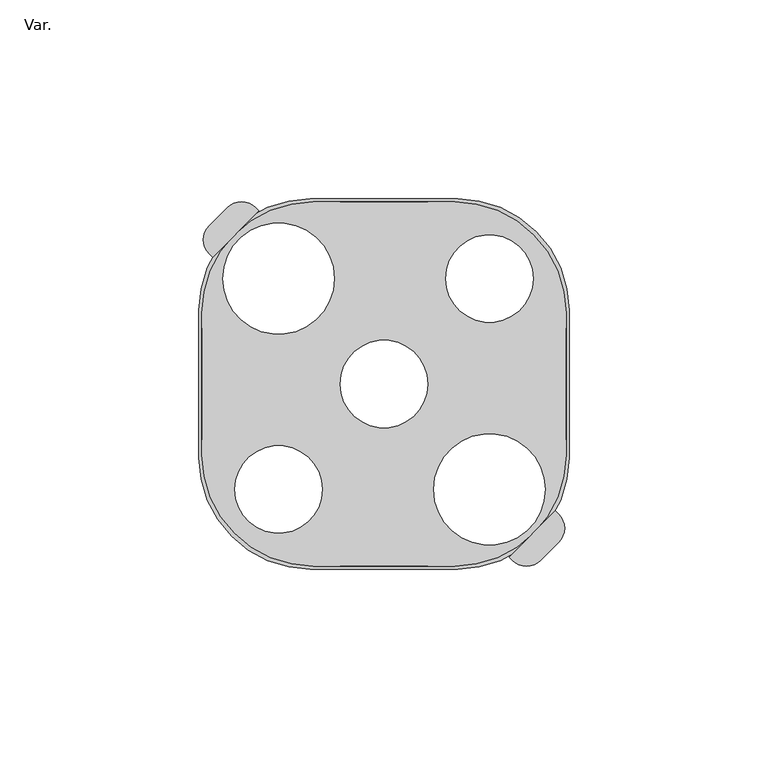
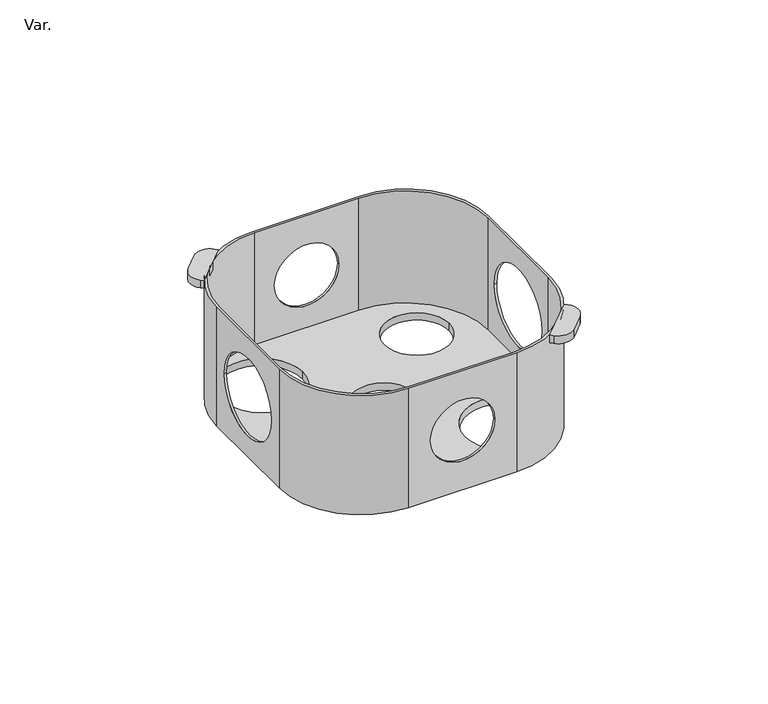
"""IFC4 building model written with IfcOpenShell, lengths in millimetres: cable carrier fitting geometry, PlastigamaWavin_Unionesdetubo_ConduitCajaOctogonal : Var.."""

from ifc_helpers import new_model, si_unit, point, frame, frame_2d, origin, place, context, project, spatial, polyline, circle_curve, trimmed, segment, composite_curve, outline, extrude, source, transform, mapped, element, save
from ifc_brep_helpers import plane_surface, cylinder_surface, revolved_surface, advanced_brep


def var_a69d591e(model_context):
    return source(origin(), model_context, "Body", "SolidModel", [
        extrude(outline(composite_curve([segment(trimmed(circle_curve(frame_2d((35.806231, -40.7917488)), 5.0), [point((39.3417649, -44.3272827))], [point((32.2706971, -44.3272827))], False, "CARTESIAN"), True, "CONTINUOUS"), segment(polyline([(32.2706971, -44.3272827), (31.4609084, -43.517494), (43.0936848, -31.8847176), (43.9034735, -32.6945063)]), True, "CONTINUOUS"), segment(trimmed(circle_curve(frame_2d((40.3679396, -36.2300402)), 5.0), [point((43.9034735, -32.6945063))], [point((43.9034735, -39.7655741))], False, "CARTESIAN"), True, "CONTINUOUS"), segment(polyline([(43.9034735, -39.7655741), (39.3417649, -44.3272827)]), True, "CONTINUOUS")], self_intersect=False)), frame((0.0, 0.0, 18.6577793), z_axis=(0.0, 0.0, 1.0), x_axis=(1.0, 0.0, 0.0)), (0.0, 0.0, 1.0), 2.8422207),
        extrude(outline(composite_curve([segment(trimmed(circle_curve(frame_2d((-35.806231, 40.7917488)), 5.0), [point((-39.3417649, 44.3272827))], [point((-32.2706971, 44.3272827))], False, "CARTESIAN"), True, "CONTINUOUS"), segment(polyline([(-32.2706971, 44.3272827), (-31.4609084, 43.517494), (-43.0936848, 31.8847176), (-43.9034735, 32.6945063)]), True, "CONTINUOUS"), segment(trimmed(circle_curve(frame_2d((-40.3679396, 36.2300402)), 5.0), [point((-43.9034735, 32.6945063))], [point((-43.9034735, 39.7655741))], False, "CARTESIAN"), True, "CONTINUOUS"), segment(polyline([(-43.9034735, 39.7655741), (-39.3417649, 44.3272827)]), True, "CONTINUOUS")], self_intersect=False)), frame((0.0, 0.0, 18.6577793), z_axis=(0.0, 0.0, 1.0), x_axis=(1.0, 0.0, 0.0)), (0.0, 0.0, 1.0), 2.8422207),
        advanced_brep(
        [(18.5, 46.5, 21.5), (-18.5, 46.5, 21.5), (-46.5, 18.5, 21.5), (-46.5, -18.5, 21.5), (-18.5, -46.5, 21.5), (18.5, -46.5, 21.5), (46.5, -18.5, 21.5), (46.5, 18.5, 21.5), (-17.75, -45.75, 21.5), (-45.75, -17.75, 21.5), (-45.75, 17.75, 21.5), (-17.75, 45.75, 21.5), (17.75, 45.75, 21.5), (45.75, 17.75, 21.5), (45.75, -17.75, 21.5), (17.75, -45.75, 21.5), (18.5, 46.5, -21.5), (46.5, 18.5, -21.5), (46.5, -18.5, -21.5), (18.5, -46.5, -21.5), (-18.5, -46.5, -21.5), (-46.5, -18.5, -21.5), (-46.5, 18.5, -21.5), (-18.5, 46.5, -21.5), (-40.5, 26.5, -21.5), (-12.5, 26.5, -21.5), (15.5, 26.5, -21.5), (37.5, 26.5, -21.5), (-11.0, 0.0, -21.5), (11.0, 0.0, -21.5), (12.5, -26.5, -21.5), (40.5, -26.5, -21.5), (-37.5, -26.5, -21.5), (-15.5, -26.5, -21.5), (-11.0, 46.5, 0.0), (11.0, 46.5, 0.0), (-46.5, -14.0, 0.0), (-46.5, 14.0, 0.0), (11.0, -46.5, 0.0), (-11.0, -46.5, 0.0), (46.5, 14.0, 0.0), (46.5, -14.0, 0.0), (-45.75, -17.75, -18.9014725), (-17.75, -45.75, -18.9014725), (17.75, -45.75, -18.9014725), (45.75, -17.75, -18.9014725), (45.75, 17.75, -18.9014725), (17.75, 45.75, -18.9014725), (-17.75, 45.75, -18.9014725), (-45.75, 17.75, -18.9014725), (-12.5, 26.5, -18.9014725), (-40.5, 26.5, -18.9014725), (37.5, 26.5, -18.9014725), (15.5, 26.5, -18.9014725), (11.0, 0.0, -18.9014725), (-11.0, 0.0, -18.9014725), (40.5, -26.5, -18.9014725), (12.5, -26.5, -18.9014725), (-15.5, -26.5, -18.9014725), (-37.5, -26.5, -18.9014725), (-11.0, -45.75, 0.0), (11.0, -45.75, 0.0), (45.75, -14.0, 0.0), (45.75, 14.0, 0.0), (11.0, 45.75, 0.0), (-11.0, 45.75, 0.0), (-45.75, 14.0, 0.0), (-45.75, -14.0, 0.0)],
        [
            (0, 1),
            (1, 2, circle_curve(frame((-18.5, 18.5, 21.5), z_axis=(0.0, 0.0, 1.0), x_axis=(1.0, 0.0, 0.0)), 28.0)),
            (2, 3),
            (3, 4, circle_curve(frame((-18.5, -18.5, 21.5), z_axis=(0.0, 0.0, 1.0), x_axis=(1.0, 0.0, 0.0)), 28.0)),
            (4, 5),
            (5, 6, circle_curve(frame((18.5, -18.5, 21.5), z_axis=(0.0, 0.0, 1.0), x_axis=(1.0, 0.0, 0.0)), 28.0)),
            (6, 7),
            (7, 0, circle_curve(frame((18.5, 18.5, 21.5), z_axis=(0.0, 0.0, 1.0), x_axis=(1.0, 0.0, 0.0)), 28.0)),
            (8, 9, circle_curve(frame((-17.75, -17.75, 21.5), z_axis=(0.0, 0.0, -1.0), x_axis=(1.0, 0.0, 0.0)), 28.0)),
            (9, 10),
            (10, 11, circle_curve(frame((-17.75, 17.75, 21.5), z_axis=(0.0, 0.0, -1.0), x_axis=(1.0, 0.0, 0.0)), 28.0)),
            (11, 12),
            (12, 13, circle_curve(frame((17.75, 17.75, 21.5), z_axis=(0.0, 0.0, -1.0), x_axis=(1.0, 0.0, 0.0)), 28.0)),
            (13, 14),
            (14, 15, circle_curve(frame((17.75, -17.75, 21.5), z_axis=(0.0, 0.0, -1.0), x_axis=(1.0, 0.0, 0.0)), 28.0)),
            (15, 8),
            (16, 17, circle_curve(frame((18.5, 18.5, -21.5), z_axis=(0.0, 0.0, -1.0), x_axis=(1.0, 0.0, 0.0)), 28.0)),
            (17, 18),
            (18, 19, circle_curve(frame((18.5, -18.5, -21.5), z_axis=(0.0, 0.0, -1.0), x_axis=(1.0, 0.0, 0.0)), 28.0)),
            (19, 20),
            (20, 21, circle_curve(frame((-18.5, -18.5, -21.5), z_axis=(0.0, 0.0, -1.0), x_axis=(1.0, 0.0, 0.0)), 28.0)),
            (21, 22),
            (22, 23, circle_curve(frame((-18.5, 18.5, -21.5), z_axis=(0.0, 0.0, -1.0), x_axis=(1.0, 0.0, 0.0)), 28.0)),
            (23, 16),
            (24, 25, circle_curve(frame((-26.5, 26.5, -21.5), z_axis=(0.0, 0.0, 1.0), x_axis=(1.0, 0.0, 0.0)), 14.0)),
            (25, 24, circle_curve(frame((-26.5, 26.5, -21.5), z_axis=(0.0, 0.0, 1.0), x_axis=(1.0, 0.0, 0.0)), 14.0)),
            (26, 27, circle_curve(frame((26.5, 26.5, -21.5), z_axis=(0.0, 0.0, 1.0), x_axis=(1.0, 0.0, 0.0)), 11.0)),
            (27, 26, circle_curve(frame((26.5, 26.5, -21.5), z_axis=(0.0, 0.0, 1.0), x_axis=(1.0, 0.0, 0.0)), 11.0)),
            (28, 29, circle_curve(frame((0.0, 0.0, -21.5), z_axis=(0.0, 0.0, 1.0), x_axis=(1.0, 0.0, 0.0)), 11.0)),
            (29, 28, circle_curve(frame((0.0, 0.0, -21.5), z_axis=(0.0, 0.0, 1.0), x_axis=(1.0, 0.0, 0.0)), 11.0)),
            (30, 31, circle_curve(frame((26.5, -26.5, -21.5), z_axis=(0.0, 0.0, 1.0), x_axis=(1.0, 0.0, 0.0)), 14.0)),
            (31, 30, circle_curve(frame((26.5, -26.5, -21.5), z_axis=(0.0, 0.0, 1.0), x_axis=(1.0, 0.0, 0.0)), 14.0)),
            (32, 33, circle_curve(frame((-26.5, -26.5, -21.5), z_axis=(0.0, 0.0, 1.0), x_axis=(1.0, 0.0, 0.0)), 11.0)),
            (33, 32, circle_curve(frame((-26.5, -26.5, -21.5), z_axis=(0.0, 0.0, 1.0), x_axis=(1.0, 0.0, 0.0)), 11.0)),
            (0, 16),
            (23, 1),
            (34, 35, circle_curve(frame((0.0, 46.5, 0.0), z_axis=(0.0, -1.0, 0.0), x_axis=(1.0, 0.0, 0.0)), 11.0)),
            (35, 34, circle_curve(frame((0.0, 46.5, 0.0), z_axis=(0.0, -1.0, 0.0), x_axis=(1.0, 0.0, 0.0)), 11.0)),
            (22, 2),
            (21, 3),
            (36, 37, circle_curve(frame((-46.5, 0.0, 0.0), z_axis=(1.0, 0.0, 0.0), x_axis=(0.0, 1.0, 0.0)), 14.0)),
            (37, 36, circle_curve(frame((-46.5, 0.0, 0.0), z_axis=(1.0, 0.0, 0.0), x_axis=(0.0, 1.0, 0.0)), 14.0)),
            (20, 4),
            (19, 5),
            (38, 39, circle_curve(frame((0.0, -46.5, 0.0), z_axis=(0.0, 1.0, 0.0), x_axis=(1.0, 0.0, 0.0)), 11.0)),
            (39, 38, circle_curve(frame((0.0, -46.5, 0.0), z_axis=(0.0, 1.0, 0.0), x_axis=(1.0, 0.0, 0.0)), 11.0)),
            (18, 6),
            (17, 7),
            (40, 41, circle_curve(frame((46.5, 0.0, 0.0), z_axis=(-1.0, 0.0, 0.0), x_axis=(0.0, 1.0, 0.0)), 14.0)),
            (41, 40, circle_curve(frame((46.5, 0.0, 0.0), z_axis=(-1.0, 0.0, 0.0), x_axis=(0.0, 1.0, 0.0)), 14.0)),
            (42, 43, circle_curve(frame((-17.75, -17.75, -18.9014725), z_axis=(0.0, 0.0, 1.0), x_axis=(1.0, 0.0, 0.0)), 28.0)),
            (43, 44),
            (44, 45, circle_curve(frame((17.75, -17.75, -18.9014725), z_axis=(0.0, 0.0, 1.0), x_axis=(1.0, 0.0, 0.0)), 28.0)),
            (45, 46),
            (46, 47, circle_curve(frame((17.75, 17.75, -18.9014725), z_axis=(0.0, 0.0, 1.0), x_axis=(1.0, 0.0, 0.0)), 28.0)),
            (47, 48),
            (48, 49, circle_curve(frame((-17.75, 17.75, -18.9014725), z_axis=(0.0, 0.0, 1.0), x_axis=(1.0, 0.0, 0.0)), 28.0)),
            (49, 42),
            (50, 51, circle_curve(frame((-26.5, 26.5, -18.9014725), z_axis=(0.0, 0.0, -1.0), x_axis=(1.0, 0.0, 0.0)), 14.0)),
            (51, 50, circle_curve(frame((-26.5, 26.5, -18.9014725), z_axis=(0.0, 0.0, -1.0), x_axis=(1.0, 0.0, 0.0)), 14.0)),
            (52, 53, circle_curve(frame((26.5, 26.5, -18.9014725), z_axis=(0.0, 0.0, -1.0), x_axis=(1.0, 0.0, 0.0)), 11.0)),
            (53, 52, circle_curve(frame((26.5, 26.5, -18.9014725), z_axis=(0.0, 0.0, -1.0), x_axis=(1.0, 0.0, 0.0)), 11.0)),
            (54, 55, circle_curve(frame((0.0, 0.0, -18.9014725), z_axis=(0.0, 0.0, -1.0), x_axis=(1.0, 0.0, 0.0)), 11.0)),
            (55, 54, circle_curve(frame((0.0, 0.0, -18.9014725), z_axis=(0.0, 0.0, -1.0), x_axis=(1.0, 0.0, 0.0)), 11.0)),
            (56, 57, circle_curve(frame((26.5, -26.5, -18.9014725), z_axis=(0.0, 0.0, -1.0), x_axis=(1.0, 0.0, 0.0)), 14.0)),
            (57, 56, circle_curve(frame((26.5, -26.5, -18.9014725), z_axis=(0.0, 0.0, -1.0), x_axis=(1.0, 0.0, 0.0)), 14.0)),
            (58, 59, circle_curve(frame((-26.5, -26.5, -18.9014725), z_axis=(0.0, 0.0, -1.0), x_axis=(1.0, 0.0, 0.0)), 11.0)),
            (59, 58, circle_curve(frame((-26.5, -26.5, -18.9014725), z_axis=(0.0, 0.0, -1.0), x_axis=(1.0, 0.0, 0.0)), 11.0)),
            (42, 9),
            (8, 43),
            (15, 44),
            (60, 61, circle_curve(frame((0.0, -45.75, 0.0), z_axis=(0.0, -1.0, 0.0), x_axis=(1.0, 0.0, 0.0)), 11.0)),
            (61, 60, circle_curve(frame((0.0, -45.75, 0.0), z_axis=(0.0, -1.0, 0.0), x_axis=(1.0, 0.0, 0.0)), 11.0)),
            (14, 45),
            (13, 46),
            (62, 63, circle_curve(frame((45.75, 0.0, 0.0), z_axis=(1.0, 0.0, 0.0), x_axis=(0.0, 1.0, 0.0)), 14.0)),
            (63, 62, circle_curve(frame((45.75, 0.0, 0.0), z_axis=(1.0, 0.0, 0.0), x_axis=(0.0, 1.0, 0.0)), 14.0)),
            (12, 47),
            (11, 48),
            (64, 65, circle_curve(frame((0.0, 45.75, 0.0), z_axis=(0.0, 1.0, 0.0), x_axis=(1.0, 0.0, 0.0)), 11.0)),
            (65, 64, circle_curve(frame((0.0, 45.75, 0.0), z_axis=(0.0, 1.0, 0.0), x_axis=(1.0, 0.0, 0.0)), 11.0)),
            (10, 49),
            (66, 67, circle_curve(frame((-45.75, 0.0, 0.0), z_axis=(-1.0, 0.0, 0.0), x_axis=(0.0, 1.0, 0.0)), 14.0)),
            (67, 66, circle_curve(frame((-45.75, 0.0, 0.0), z_axis=(-1.0, 0.0, 0.0), x_axis=(0.0, 1.0, 0.0)), 14.0)),
            (24, 51),
            (50, 25),
            (26, 53),
            (52, 27),
            (28, 55),
            (54, 29),
            (30, 57),
            (56, 31),
            (32, 59),
            (58, 33),
            (60, 39),
            (38, 61),
            (34, 65),
            (64, 35),
            (62, 41),
            (40, 63),
            (36, 67),
            (66, 37),
        ],
        [
            plane_surface(frame((-18.5, 46.5, 21.5), z_axis=(0.0, 0.0, 1.0), x_axis=(-1.0, 0.0, 0.0))),
            plane_surface(frame((-18.5, 46.5, -21.5), z_axis=(0.0, 0.0, -1.0), x_axis=(1.0, 0.0, 0.0))),
            plane_surface(frame((18.5, 46.5, 21.5), z_axis=(0.0, 1.0, 0.0), x_axis=(0.0, 0.0, -1.0))),
            cylinder_surface(frame((-18.5, 18.5, -21.5), z_axis=(0.0, 0.0, 1.0), x_axis=(1.0, 0.0, 0.0)), 28.0),
            plane_surface(frame((-46.5, 18.5, 21.5), z_axis=(-1.0, 0.0, 0.0), x_axis=(0.0, 0.0, -1.0))),
            cylinder_surface(frame((-18.5, -18.5, -21.5), z_axis=(0.0, 0.0, 1.0), x_axis=(1.0, 0.0, 0.0)), 28.0),
            plane_surface(frame((-18.5, -46.5, 21.5), z_axis=(0.0, -1.0, 0.0), x_axis=(0.0, 0.0, -1.0))),
            cylinder_surface(frame((18.5, -18.5, -21.5), z_axis=(0.0, 0.0, 1.0), x_axis=(1.0, 0.0, 0.0)), 28.0),
            plane_surface(frame((46.5, -18.5, 21.5), z_axis=(1.0, 0.0, 0.0), x_axis=(0.0, 0.0, -1.0))),
            cylinder_surface(frame((18.5, 18.5, -21.5), z_axis=(0.0, 0.0, 1.0), x_axis=(1.0, 0.0, 0.0)), 28.0),
            plane_surface(frame((10.25, -17.75, -18.9014725), z_axis=(0.0, 0.0, 1.0), x_axis=(0.0, -1.0, 0.0))),
            revolved_surface(polyline([(10.25, -17.75, 21.499999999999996), (10.25, -17.75, -18.9014725)]), (-17.75, -17.75, -18.9014725), (0.0, 0.0, 1.0)),
            plane_surface(frame((-17.75, -45.75, 21.5), z_axis=(0.0, 1.0, 0.0), x_axis=(0.0, 0.0, -1.0))),
            revolved_surface(polyline([(45.75, -17.75, 21.499999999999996), (45.75, -17.75, -18.9014725)]), (17.75, -17.75, -18.9014725), (0.0, 0.0, 1.0)),
            plane_surface(frame((45.75, -17.75, 21.5), z_axis=(-1.0, 0.0, 0.0), x_axis=(0.0, 0.0, -1.0))),
            revolved_surface(polyline([(45.75, 17.75, 21.499999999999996), (45.75, 17.75, -18.9014725)]), (17.75, 17.75, -18.9014725), (0.0, 0.0, 1.0)),
            plane_surface(frame((17.75, 45.75, 21.5), z_axis=(0.0, -1.0, 0.0), x_axis=(0.0, 0.0, -1.0))),
            revolved_surface(polyline([(10.25, 17.75, 21.499999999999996), (10.25, 17.75, -18.9014725)]), (-17.75, 17.75, -18.9014725), (0.0, 0.0, 1.0)),
            plane_surface(frame((-45.75, 17.75, 21.5), z_axis=(1.0, 0.0, 0.0), x_axis=(0.0, 0.0, -1.0))),
            revolved_surface(polyline([(-12.5, 26.5, -18.901472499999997), (-12.5, 26.5, -21.5)]), (-26.5, 26.5, -82.1571203), (0.0, 0.0, 1.0)),
            revolved_surface(polyline([(37.5, 26.5, -18.9014725), (37.5, 26.5, -21.5)]), (26.5, 26.5, 0.0), (0.0, 0.0, 1.0)),
            revolved_surface(polyline([(11.0, 0.0, -18.9014725), (11.0, 0.0, -21.5)]), (0.0, 0.0, 0.0), (0.0, 0.0, 1.0)),
            revolved_surface(polyline([(40.5, -26.5, -18.9014725), (40.5, -26.5, -21.5)]), (26.5, -26.5, 0.0), (0.0, 0.0, 1.0)),
            revolved_surface(polyline([(-15.5, -26.5, -18.9014725), (-15.5, -26.5, -21.5)]), (-26.5, -26.5, 0.0), (0.0, 0.0, 1.0)),
            revolved_surface(polyline([(11.0, -46.5, 0.0), (11.0, -45.75, 0.0)]), (0.0, 46.5, 0.0), (0.0, -1.0, 0.0)),
            revolved_surface(polyline([(11.0, 45.75, 0.0), (11.0, 46.5, 0.0)]), (0.0, 46.5, 0.0), (0.0, -1.0, 0.0)),
            revolved_surface(polyline([(46.5, 14.0, 0.0), (45.75, 14.0, 0.0)]), (-46.5, 0.0, 0.0), (1.0, 0.0, 0.0)),
            revolved_surface(polyline([(-45.75, 14.0, 0.0), (-46.5, 14.0, 0.0)]), (-46.5, 0.0, 0.0), (1.0, 0.0, 0.0)),
        ],
        [
            (0, [[1, 2, 3, 4, 5, 6, 7, 8], [9, 10, 11, 12, 13, 14, 15, 16]]),
            (1, [[17, 18, 19, 20, 21, 22, 23, 24], [25, 26], [27, 28], [29, 30], [31, 32], [33, 34]]),
            (2, [[-1, 35, -24, 36], [37, 38]]),
            (3, [[-2, -36, -23, 39]]),
            (4, [[-3, -39, -22, 40], [41, 42]]),
            (5, [[-4, -40, -21, 43]]),
            (6, [[-5, -43, -20, 44], [45, 46]]),
            (7, [[-6, -44, -19, 47]]),
            (8, [[-7, -47, -18, 48], [49, 50]]),
            (9, [[-8, -48, -17, -35]]),
            (10, [[51, 52, 53, 54, 55, 56, 57, 58], [59, 60], [61, 62], [63, 64], [65, 66], [67, 68]]),
            (11, [[-51, 69, -9, 70]]),
            (12, [[-52, -70, -16, 71], [72, 73]]),
            (13, [[-53, -71, -15, 74]]),
            (14, [[-54, -74, -14, 75], [76, 77]]),
            (15, [[-55, -75, -13, 78]]),
            (16, [[-56, -78, -12, 79], [80, 81]]),
            (17, [[-57, -79, -11, 82]]),
            (18, [[-58, -82, -10, -69], [83, 84]]),
            (19, [[85, -59, 86, -25]]),
            (19, [[-85, -26, -86, -60]]),
            (20, [[87, -61, 88, -27]]),
            (20, [[-87, -28, -88, -62]]),
            (21, [[89, -63, 90, -29]]),
            (21, [[-89, -30, -90, -64]]),
            (22, [[91, -65, 92, -31]]),
            (22, [[-91, -32, -92, -66]]),
            (23, [[93, -67, 94, -33]]),
            (23, [[-93, -34, -94, -68]]),
            (24, [[95, -45, 96, -72]]),
            (25, [[97, -80, 98, -37]]),
            (24, [[-95, -73, -96, -46]]),
            (25, [[-97, -38, -98, -81]]),
            (26, [[99, -49, 100, -76]]),
            (27, [[101, -83, 102, -41]]),
            (26, [[-99, -77, -100, -50]]),
            (27, [[-101, -42, -102, -84]]),
        ],
    ),
    ])


if __name__ == "__main__":
    model = new_model("IFC4")
    model_context = context("Model", 3, world=origin())
    ifc_project = project(units=[si_unit("LENGTHUNIT", "METRE", prefix="MILLI")], contexts=[model_context])
    site = spatial("IfcSite", under=ifc_project)
    building = spatial("IfcBuilding", under=site)
    placement = place(None, origin())
    var_shape = var_a69d591e(model_context)
    element("IfcCableCarrierFitting", 1, ObjectType="PlastigamaWavin_Unionesdetubo_ConduitCajaOctogonal : Var.", at=placement, inside=building, context=model_context, shape_type="MappedRepresentation", body=[
        mapped(var_shape, transform((0.0, 0.0, 0.0), x_axis=(1.0, 0.0, 0.0), y_axis=(0.0, 1.0, 0.0), z_axis=(0.0, 0.0, 1.0))),
    ])
    save(model, "model.ifc")
